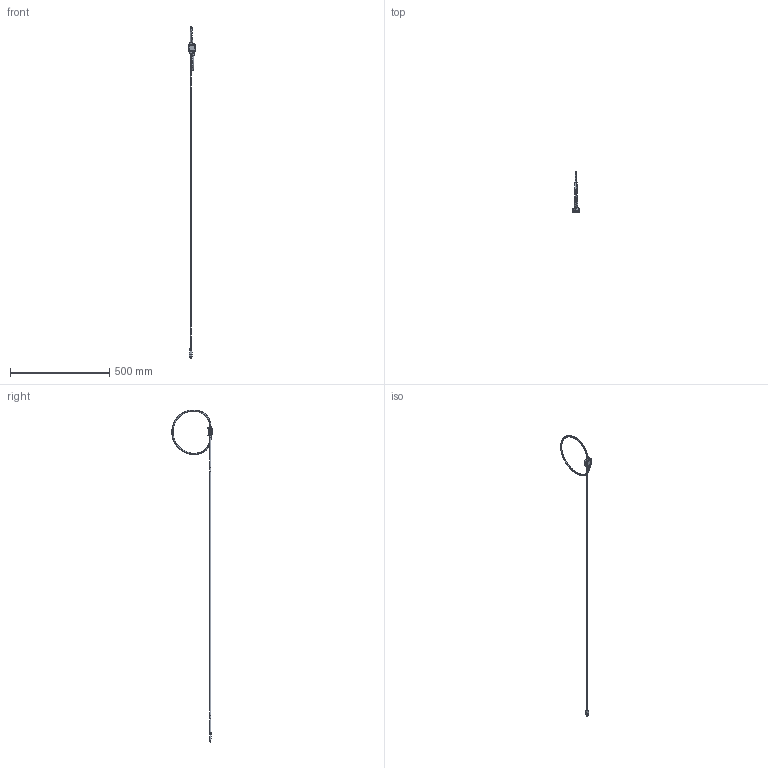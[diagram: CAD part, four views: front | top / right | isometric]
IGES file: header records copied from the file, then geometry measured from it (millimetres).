
Start section: Elysium IGES Interface
Global section: file name: C:\Users\vbo\Desktop\90.M8.99.016.0.igs; native system: Creo Elements/Direct Modeling 20.1  10-Mar-2018; preprocessor: Creo Element/Direct IGES_3D V2.2; author: Unknown; organization: Unknown; date: 20201215.174420; units: millimetre
Bounding box: 33.64 x 202.93 x 1674.39 mm (x, y, z)
Volume: 80679.3 mm3; surface area: 47326.3 mm2
Topology: 1 solids, 1 shells, 1356 faces, 3601 edges, 2221 vertices
Faces by surface type: bspline 1356
